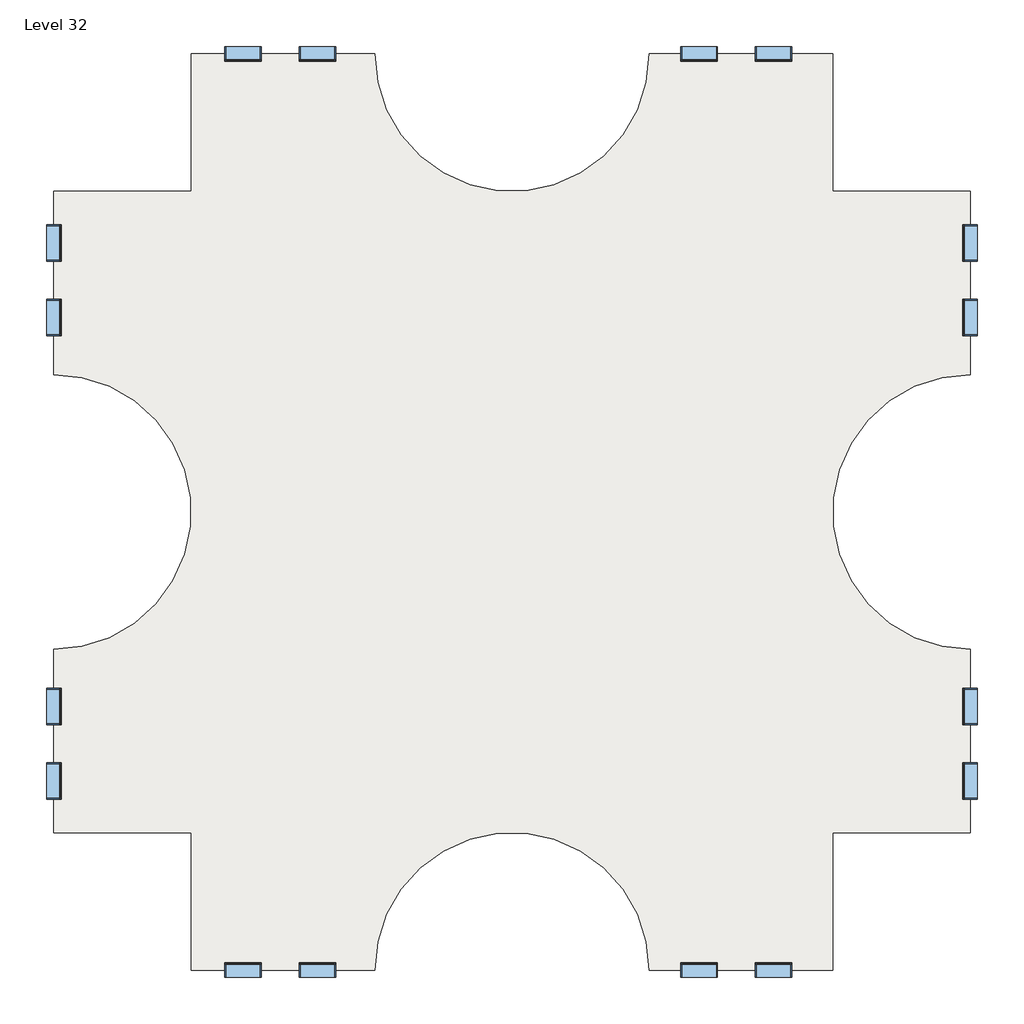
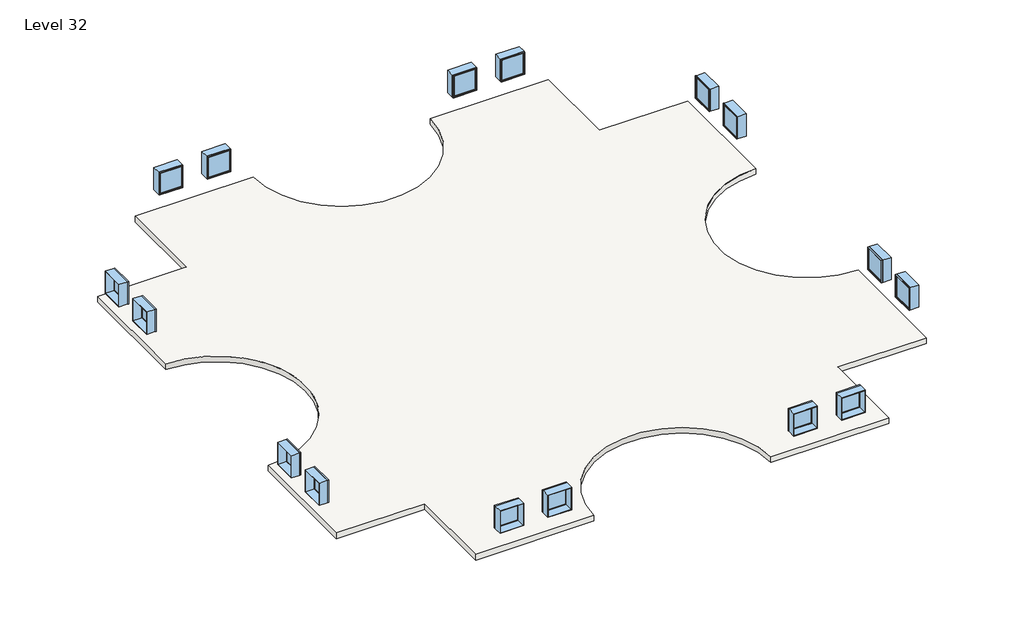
# One storey: 16 windows, 3 slabs.
"""IFC4 building model written with IfcOpenShell, lengths in millimetres."""

import ifcopenshell
import ifcopenshell.guid

model = None  # the IFC model being written
_history = None  # IfcOwnerHistory: only IFC2X3 demands one
_inside = {}  # id of a spatial element -> (the spatial element, [elements in it])
_under = {}  # id of a project, library or spatial element -> (it, [spatial elements below it])
_declared = {}  # id of a project -> (the project, [libraries it declares])
_typed = {}  # id of a type object -> (the type object, [elements of that type])
_made_of = {}  # id of a material, layer set ... -> (it, [elements and type objects made of it])


def new_model(schema):
    """Start an empty IFC model of exactly this schema.

    Asked for "IFC4X3", IfcOpenShell would pick the latest addendum, in which some entities
    have other attributes; the version numbers below select the first issue.
    IFC2X3 requires an IfcOwnerHistory on every rooted entity: one is made here for all.
    """
    global model, _history
    if schema == "IFC4X3":
        model = ifcopenshell.file(schema_version=(4, 3, 0, 0))
    else:
        model = ifcopenshell.file(schema=schema)
    _inside.clear()
    _under.clear()
    _declared.clear()
    _typed.clear()
    _made_of.clear()
    _history = None
    if model.schema == "IFC2X3":
        org = make("IfcOrganization", Name="unknown")
        user = make(
            "IfcPersonAndOrganization",
            ThePerson=make("IfcPerson", FamilyName="unknown"),
            TheOrganization=org,
        )
        app = make(
            "IfcApplication",
            ApplicationDeveloper=org,
            Version="unknown",
            ApplicationFullName="unknown",
            ApplicationIdentifier="unknown",
        )
        _history = make(
            "IfcOwnerHistory",
            OwningUser=user,
            OwningApplication=app,
            ChangeAction="ADDED",
            CreationDate=0,
        )
    return model


def make(cls, **values):
    """One entity of the class cls with the attributes given. An attribute that is None is left unset."""
    return model.create_entity(
        cls, **{name: value for name, value in values.items() if value is not None}
    )


def rooted(cls, **values):
    """An entity with a GlobalId (a new one), such as an element, a storey or a relation."""
    return make(cls, GlobalId=ifcopenshell.guid.new(), OwnerHistory=_history, **values)


def si_unit(unit_type, name, prefix=None):
    """IfcSIUnit, for example si_unit("LENGTHUNIT", "METRE", prefix="MILLI")."""
    return make("IfcSIUnit", UnitType=unit_type, Prefix=prefix, Name=name)


def assignment(units):
    """IfcUnitAssignment: the units of a project."""
    return None if units is None else make("IfcUnitAssignment", Units=units)


def point(xyz):
    """IfcCartesianPoint."""
    return None if xyz is None else make("IfcCartesianPoint", Coordinates=xyz)


def direction(xyz):
    """IfcDirection."""
    return None if xyz is None else make("IfcDirection", DirectionRatios=xyz)


def frame(location, z_axis=None, x_axis=None):
    """IfcAxis2Placement3D, a coordinate frame: its origin and axes. An axis left out is left unset."""
    return make(
        "IfcAxis2Placement3D",
        Location=point(location),
        Axis=direction(z_axis),
        RefDirection=direction(x_axis),
    )


def frame_2d(location, x_axis=None):
    """IfcAxis2Placement2D, a coordinate frame in the plane: its origin and x axis."""
    return make(
        "IfcAxis2Placement2D", Location=point(location), RefDirection=direction(x_axis)
    )


def origin():
    """The frame at (0, 0, 0) with its axes left unset."""
    return frame((0.0, 0.0, 0.0))


def place(relative_to, where):
    """IfcLocalPlacement: puts the frame where relative to a parent placement (None: the world)."""
    return make(
        "IfcLocalPlacement", PlacementRelTo=relative_to, RelativePlacement=where
    )


def context(
    kind, dimensions, precision=None, world=None, true_north=None, identifier=None
):
    """IfcGeometricRepresentationContext, for example the 3D "Model" context."""
    return make(
        "IfcGeometricRepresentationContext",
        ContextIdentifier=identifier,
        ContextType=kind,
        CoordinateSpaceDimension=dimensions,
        Precision=precision,
        WorldCoordinateSystem=world,
        TrueNorth=true_north,
    )


def project(units=None, contexts=None):
    """IfcProject with its units and contexts."""
    return rooted(
        "IfcProject",
        Name="project",
        RepresentationContexts=contexts,
        UnitsInContext=assignment(units),
    )


def spatial(cls, under=None, at=None, **own):
    """A site, building, storey or space (cls), placed at a placement, below another one or the project."""
    s = rooted(cls, ObjectPlacement=at, **own)
    if under is not None:
        _under.setdefault(under.id(), (under, []))[1].append(s)
    return s


def polyline(points):
    """IfcPolyline through the points."""
    return make("IfcPolyline", Points=[point(p) for p in points])


def circle_curve(where, radius):
    """IfcCircle in the frame where."""
    return make("IfcCircle", Position=where, Radius=radius)


def trimmed(basis, trim1, trim2, sense, master):
    """IfcTrimmedCurve: the piece of a basis curve between two trims."""
    return make(
        "IfcTrimmedCurve",
        BasisCurve=basis,
        Trim1=trim1,
        Trim2=trim2,
        SenseAgreement=sense,
        MasterRepresentation=master,
    )


def segment(curve, same_sense, transition):
    """IfcCompositeCurveSegment."""
    return make(
        "IfcCompositeCurveSegment",
        Transition=transition,
        SameSense=same_sense,
        ParentCurve=curve,
    )


def composite_curve(segments, self_intersect=None):
    """IfcCompositeCurve: segments joined end to end."""
    return make("IfcCompositeCurve", Segments=segments, SelfIntersect=self_intersect)


def outline(outer, holes=None, kind="AREA"):
    """IfcArbitraryClosedProfileDef: a profile drawn as a closed curve; with holes, ...WithVoids."""
    if holes is None:
        return make("IfcArbitraryClosedProfileDef", ProfileType=kind, OuterCurve=outer)
    return make(
        "IfcArbitraryProfileDefWithVoids",
        ProfileType=kind,
        OuterCurve=outer,
        InnerCurves=holes,
    )


def extrude(swept, where, along, depth):
    """IfcExtrudedAreaSolid: the profile swept, set in the frame where, extruded along a direction by depth."""
    return make(
        "IfcExtrudedAreaSolid",
        SweptArea=swept,
        Position=where,
        ExtrudedDirection=direction(along),
        Depth=depth,
    )


def shape(context_of_items, identifier, shape_type, items):
    """IfcShapeRepresentation: the items that make up one representation, for example the "Body"."""
    return make(
        "IfcShapeRepresentation",
        ContextOfItems=context_of_items,
        RepresentationIdentifier=identifier,
        RepresentationType=shape_type,
        Items=items,
    )


def source(mapping_origin, context_of_items, identifier, shape_type, items):
    """IfcRepresentationMap: a shape defined once, which mapped items show again and again."""
    return make(
        "IfcRepresentationMap",
        MappingOrigin=mapping_origin,
        MappedRepresentation=shape(context_of_items, identifier, shape_type, items),
    )


def transform(
    local_origin,
    x_axis=None,
    y_axis=None,
    z_axis=None,
    scale=None,
    scale2=None,
    scale3=None,
    uniform=True,
):
    """IfcCartesianTransformationOperator3D, or its non-uniform kind. x_axis, y_axis, z_axis: its Axis1, 2, 3."""
    if uniform:
        return make(
            "IfcCartesianTransformationOperator3D",
            Axis1=direction(x_axis),
            Axis2=direction(y_axis),
            LocalOrigin=point(local_origin),
            Scale=scale,
            Axis3=direction(z_axis),
        )
    return make(
        "IfcCartesianTransformationOperator3DnonUniform",
        Axis1=direction(x_axis),
        Axis2=direction(y_axis),
        LocalOrigin=point(local_origin),
        Scale=scale,
        Axis3=direction(z_axis),
        Scale2=scale2,
        Scale3=scale3,
    )


def mapped(mapping_source, mapping_target):
    """IfcMappedItem: shows the shape of a source again, moved by a transform."""
    return make(
        "IfcMappedItem", MappingSource=mapping_source, MappingTarget=mapping_target
    )


def made_of(thing, what):
    """Note that an element or type object is made of a material, layer set ...; save() writes the relation."""
    if what is not None:
        _made_of.setdefault(what.id(), (what, []))[1].append(thing)
    return thing


def element(
    cls,
    number,
    at=None,
    inside=None,
    cuts=None,
    type_object=None,
    material=None,
    context=None,
    identifier="Body",
    shape_type=None,
    held_by="IfcProductDefinitionShape",
    body=None,
    shapes=None,
    **own,
):
    """One element of the class cls, such as IfcWall. Its Tag is "e" and its number.

    at: its placement. inside: the storey or other place that contains it. cuts: it is an
    opening in that element (IfcRelVoidsElement). A single representation is given by context,
    identifier, shape_type and body (its items); several are given by shapes. held_by: the class
    of the entity that holds the representations. save() writes the other relations.
    """
    e = rooted(cls, Tag="e%d" % number, ObjectPlacement=at, **own)
    if body is not None:
        shapes = [shape(context, identifier, shape_type, body)]
    if shapes is not None:
        e.Representation = make(held_by, Representations=shapes)
    if inside is not None:
        _inside.setdefault(inside.id(), (inside, []))[1].append(e)
    if cuts is not None:
        rooted(
            "IfcRelVoidsElement", RelatingBuildingElement=cuts, RelatedOpeningElement=e
        )
    if type_object is not None:
        _typed.setdefault(type_object.id(), (type_object, []))[1].append(e)
    return made_of(e, material)


def aggregate(whole, parts):
    """IfcRelAggregates: a whole, such as a stair, and the parts it consists of."""
    return rooted("IfcRelAggregates", RelatingObject=whole, RelatedObjects=parts)


def save(model, path):
    """Write the relations noted so far, then the file.

    IfcRelAggregates (storeys below a building ...), IfcRelContainedInSpatialStructure (elements
    in a storey), IfcRelDefinesByType, IfcRelAssociatesMaterial and IfcRelDeclares: one each for
    every whole, place, type object, material and project.
    """
    for whole, parts in _under.values():
        aggregate(whole, parts)
    for where, things in _inside.values():
        rooted(
            "IfcRelContainedInSpatialStructure",
            RelatedElements=things,
            RelatingStructure=where,
        )
    for kind, things in _typed.values():
        rooted("IfcRelDefinesByType", RelatedObjects=things, RelatingType=kind)
    for what, things in _made_of.values():
        rooted("IfcRelAssociatesMaterial", RelatedObjects=things, RelatingMaterial=what)
    for by, libraries in _declared.values():
        rooted("IfcRelDeclares", RelatingContext=by, RelatedDefinitions=libraries)
    model.write(path)


def window_d0035ecf(model_context):
    return source(origin(), model_context, "Body", "SweptSolid", [
        extrude(outline(polyline([(508.0, 200.025), (-584.2, 200.025), (-584.2, 212.725), (508.0, 212.725), (508.0, 200.025)])), frame((0.0, 0.0, 977.9), z_axis=(0.0, 0.0, 1.0), x_axis=(1.0, 0.0, 0.0)), (0.0, 0.0, 1.0), 1092.2),
        extrude(outline(polyline([(2114.55, -628.65), (933.45, -628.65), (933.45, 552.45), (2114.55, 552.45), (2114.55, -628.65)]), holes=[polyline([(2070.1, -584.2), (2070.1, 508.0), (977.9, 508.0), (977.9, -584.2), (2070.1, -584.2)])]), frame((0.0, 184.15, 0.0), z_axis=(0.0, 1.0, 0.0), x_axis=(0.0, 0.0, 1.0)), (0.0, 0.0, 1.0), 44.45),
        extrude(outline(polyline([(2133.6, -647.7), (914.4, -647.7), (914.4, 571.5), (2133.6, 571.5), (2133.6, -647.7)]), holes=[polyline([(2101.85, -615.95), (2101.85, 539.75), (946.15, 539.75), (946.15, -615.95), (2101.85, -615.95)])]), frame((0.0, -247.65, 0.0), z_axis=(0.0, 1.0, 0.0), x_axis=(0.0, 0.0, 1.0)), (0.0, 0.0, 1.0), 431.8),
        extrude(outline(polyline([(2133.6, 571.5), (2133.6, -647.7), (914.4, -647.7), (914.4, 571.5), (2133.6, 571.5)]), holes=[polyline([(2114.55, 552.45), (933.45, 552.45), (933.45, -628.65), (2114.55, -628.65), (2114.55, 552.45)])]), frame((0.0, 184.15, 0.0), z_axis=(0.0, 1.0, 0.0), x_axis=(0.0, 0.0, 1.0)), (0.0, 0.0, 1.0), 63.5),
    ])


def window_d434eb62(model_context):
    return source(origin(), model_context, "Body", "SweptSolid", [
        extrude(outline(polyline([(508.0, -200.025), (508.0, -212.725), (-584.2, -212.725), (-584.2, -200.025), (508.0, -200.025)])), frame((0.0, 0.0, 977.9), z_axis=(0.0, 0.0, 1.0), x_axis=(1.0, 0.0, 0.0)), (0.0, 0.0, 1.0), 1092.2),
        extrude(outline(polyline([(2114.55, -628.65), (933.45, -628.65), (933.45, 552.45), (2114.55, 552.45), (2114.55, -628.65)]), holes=[polyline([(2070.1, -584.2), (2070.1, 508.0), (977.9, 508.0), (977.9, -584.2), (2070.1, -584.2)])]), frame((0.0, -228.6, 0.0), z_axis=(0.0, 1.0, 0.0), x_axis=(0.0, 0.0, 1.0)), (0.0, 0.0, 1.0), 44.45),
        extrude(outline(polyline([(2133.6, -647.7), (914.4, -647.7), (914.4, 571.5), (2133.6, 571.5), (2133.6, -647.7)]), holes=[polyline([(2101.85, -615.95), (2101.85, 539.75), (946.15, 539.75), (946.15, -615.95), (2101.85, -615.95)])]), frame((0.0, -184.15, 0.0), z_axis=(0.0, 1.0, 0.0), x_axis=(0.0, 0.0, 1.0)), (0.0, 0.0, 1.0), 431.8),
        extrude(outline(polyline([(2133.6, 571.5), (2133.6, -647.7), (914.4, -647.7), (914.4, 571.5), (2133.6, 571.5)]), holes=[polyline([(2114.55, 552.45), (933.45, 552.45), (933.45, -628.65), (2114.55, -628.65), (2114.55, 552.45)])]), frame((0.0, -247.65, 0.0), z_axis=(0.0, 1.0, 0.0), x_axis=(0.0, 0.0, 1.0)), (0.0, 0.0, 1.0), 63.5),
    ])


model = new_model("IFC4")

# Units and contexts
model_context = context("Model", 3, world=origin())
ifc_project = project(units=[si_unit("LENGTHUNIT", "METRE", prefix="MILLI")], contexts=[model_context])

# Site, building, storey
site = spatial("IfcSite", under=ifc_project)
building = spatial("IfcBuilding", under=site)
storey = spatial("IfcBuildingStorey", under=building, Name="Level 32", Elevation=94488.0)

# Slabs
placement = place(None, origin())
element("IfcSlab", 1, ObjectType="Generic - 12\"", at=placement, inside=storey, context=model_context, shape_type="SweptSolid", body=[
    extrude(outline(composite_curve([segment(polyline([(-7150.3629456, 4479.6634547), (-7150.3629456, 9051.6634547), (-1054.3629456, 9051.6634547)]), True, "CONTINUOUS"), segment(trimmed(circle_curve(frame_2d((3517.6370544, 9051.6634547)), 4572.0), [point((-1054.3629456, 9051.6634547))], [point((8089.6370544, 9051.6634547))], True, "CARTESIAN"), True, "CONTINUOUS"), segment(polyline([(8089.6370544, 9051.6634547), (14185.6370544, 9051.6634547), (14185.6370544, 4479.6634547), (18757.6370544, 4479.6634547), (18757.6370544, -1616.3365453)]), True, "CONTINUOUS"), segment(trimmed(circle_curve(frame_2d((18757.6370544, -6188.3365453)), 4572.0), [point((18757.6370544, -1616.3365453))], [point((18757.6370544, -10760.3365453))], True, "CARTESIAN"), True, "CONTINUOUS"), segment(polyline([(18757.6370544, -10760.3365453), (18757.6370544, -16856.3365453), (14185.6370544, -16856.3365453), (14185.6370544, -21428.3365453), (8089.6370544, -21428.3365453)]), True, "CONTINUOUS"), segment(trimmed(circle_curve(frame_2d((3517.6370544, -21428.3365453)), 4572.0), [point((8089.6370544, -21428.3365453))], [point((-1054.3629456, -21428.3365453))], True, "CARTESIAN"), True, "CONTINUOUS"), segment(polyline([(-1054.3629456, -21428.3365453), (-7150.3629456, -21428.3365453), (-7150.3629456, -16856.3365453), (-11722.3629456, -16856.3365453), (-11722.3629456, -10760.3365453)]), True, "CONTINUOUS"), segment(trimmed(circle_curve(frame_2d((-11722.3629456, -6188.3365453)), 4572.0), [point((-11722.3629456, -10760.3365453))], [point((-11722.3629456, -1616.3365453))], True, "CARTESIAN"), True, "CONTINUOUS"), segment(polyline([(-11722.3629456, -1616.3365453), (-11722.3629456, 4479.6634547), (-7150.3629456, 4479.6634547)]), True, "CONTINUOUS")], self_intersect=False)), frame((0.0, 0.0, 94183.2), z_axis=(0.0, 0.0, 1.0), x_axis=(1.0, 0.0, 0.0)), (0.0, 0.0, 1.0), 304.8),
])
element("IfcSlab", 2, ObjectType="Generic - 12\"", at=placement, inside=storey, context=model_context, shape_type="SweptSolid", body=[
    extrude(outline(composite_curve([segment(polyline([(-7150.3629456, 4479.6634547), (-7150.3629456, 9051.6634547), (-1054.3629456, 9051.6634547)]), True, "CONTINUOUS"), segment(trimmed(circle_curve(frame_2d((3517.6370544, 9051.6634547)), 4572.0), [point((-1054.3629456, 9051.6634547))], [point((8089.6370544, 9051.6634547))], True, "CARTESIAN"), True, "CONTINUOUS"), segment(polyline([(8089.6370544, 9051.6634547), (14185.6370544, 9051.6634547), (14185.6370544, 4479.6634547), (18757.6370544, 4479.6634547), (18757.6370544, -1616.3365453)]), True, "CONTINUOUS"), segment(trimmed(circle_curve(frame_2d((18757.6370544, -6188.3365453)), 4572.0), [point((18757.6370544, -1616.3365453))], [point((18757.6370544, -10760.3365453))], True, "CARTESIAN"), True, "CONTINUOUS"), segment(polyline([(18757.6370544, -10760.3365453), (18757.6370544, -16856.3365453), (14185.6370544, -16856.3365453), (14185.6370544, -21428.3365453), (8089.6370544, -21428.3365453)]), True, "CONTINUOUS"), segment(trimmed(circle_curve(frame_2d((3517.6370544, -21428.3365453)), 4572.0), [point((8089.6370544, -21428.3365453))], [point((-1054.3629456, -21428.3365453))], True, "CARTESIAN"), True, "CONTINUOUS"), segment(polyline([(-1054.3629456, -21428.3365453), (-7150.3629456, -21428.3365453), (-7150.3629456, -16856.3365453), (-11722.3629456, -16856.3365453), (-11722.3629456, -10760.3365453)]), True, "CONTINUOUS"), segment(trimmed(circle_curve(frame_2d((-11722.3629456, -6188.3365453)), 4572.0), [point((-11722.3629456, -10760.3365453))], [point((-11722.3629456, -1616.3365453))], True, "CARTESIAN"), True, "CONTINUOUS"), segment(polyline([(-11722.3629456, -1616.3365453), (-11722.3629456, 4479.6634547), (-7150.3629456, 4479.6634547)]), True, "CONTINUOUS")], self_intersect=False)), frame((0.0, 0.0, 94183.2), z_axis=(0.0, 0.0, 1.0), x_axis=(1.0, 0.0, 0.0)), (0.0, 0.0, 1.0), 304.8),
])
element("IfcSlab", 3, ObjectType="Generic - 12\"", at=placement, inside=storey, context=model_context, shape_type="SweptSolid", body=[
    extrude(outline(composite_curve([segment(polyline([(-7150.3629456, 4479.6634547), (-7150.3629456, 9051.6634547), (-1054.3629456, 9051.6634547)]), True, "CONTINUOUS"), segment(trimmed(circle_curve(frame_2d((3517.6370544, 9051.6634547)), 4572.0), [point((-1054.3629456, 9051.6634547))], [point((8089.6370544, 9051.6634547))], True, "CARTESIAN"), True, "CONTINUOUS"), segment(polyline([(8089.6370544, 9051.6634547), (14185.6370544, 9051.6634547), (14185.6370544, 4479.6634547), (18757.6370544, 4479.6634547), (18757.6370544, -1616.3365453)]), True, "CONTINUOUS"), segment(trimmed(circle_curve(frame_2d((18757.6370544, -6188.3365453)), 4572.0), [point((18757.6370544, -1616.3365453))], [point((18757.6370544, -10760.3365453))], True, "CARTESIAN"), True, "CONTINUOUS"), segment(polyline([(18757.6370544, -10760.3365453), (18757.6370544, -16856.3365453), (14185.6370544, -16856.3365453), (14185.6370544, -21428.3365453), (8089.6370544, -21428.3365453)]), True, "CONTINUOUS"), segment(trimmed(circle_curve(frame_2d((3517.6370544, -21428.3365453)), 4572.0), [point((8089.6370544, -21428.3365453))], [point((-1054.3629456, -21428.3365453))], True, "CARTESIAN"), True, "CONTINUOUS"), segment(polyline([(-1054.3629456, -21428.3365453), (-7150.3629456, -21428.3365453), (-7150.3629456, -16856.3365453), (-11722.3629456, -16856.3365453), (-11722.3629456, -10760.3365453)]), True, "CONTINUOUS"), segment(trimmed(circle_curve(frame_2d((-11722.3629456, -6188.3365453)), 4572.0), [point((-11722.3629456, -10760.3365453))], [point((-11722.3629456, -1616.3365453))], True, "CARTESIAN"), True, "CONTINUOUS"), segment(polyline([(-11722.3629456, -1616.3365453), (-11722.3629456, 4479.6634547), (-7150.3629456, 4479.6634547)]), True, "CONTINUOUS")], self_intersect=False)), frame((0.0, 0.0, 94183.2), z_axis=(0.0, 0.0, 1.0), x_axis=(1.0, 0.0, 0.0)), (0.0, 0.0, 1.0), 304.8),
])

# Windows
window_shape = window_d0035ecf(model_context)
element("IfcWindow", 4, ObjectType="Fixed : 48\" x 48\"", at=placement, inside=storey, context=model_context, shape_type="MappedRepresentation", body=[
    mapped(window_shape, transform((-11719.1879456, 247.3884547, 94488.0), x_axis=(0.0, -1.0, 0.0), y_axis=(1.0, 0.0, 0.0), z_axis=(0.0, 0.0, 1.0))),
])
element("IfcWindow", 5, ObjectType="Fixed : 48\" x 48\"", at=placement, inside=storey, context=model_context, shape_type="MappedRepresentation", body=[
    mapped(window_shape, transform((-5469.1993281, 9048.4884547, 94488.0), x_axis=(-1.0, 0.0, 0.0), y_axis=(0.0, -1.0, 0.0), z_axis=(0.0, 0.0, 1.0))),
])
element("IfcWindow", 6, ObjectType="Fixed : 48\" x 48\"", at=placement, inside=storey, context=model_context, shape_type="MappedRepresentation", body=[
    mapped(window_shape, transform((-11719.1879456, -15175.1729277, 94488.0), x_axis=(0.0, -1.0, 0.0), y_axis=(1.0, 0.0, 0.0), z_axis=(0.0, 0.0, 1.0))),
])
element("IfcWindow", 7, ObjectType="Fixed : 48\" x 48\"", at=placement, inside=storey, context=model_context, shape_type="MappedRepresentation", body=[
    mapped(window_shape, transform((-2918.0879456, -21425.1615453, 94488.0), x_axis=(1.0, 0.0, 0.0), y_axis=(0.0, 1.0, 0.0), z_axis=(0.0, 0.0, 1.0))),
])
element("IfcWindow", 8, ObjectType="Fixed : 48\" x 48\"", at=placement, inside=storey, context=model_context, shape_type="MappedRepresentation", body=[
    mapped(window_shape, transform((18754.4620544, 2798.4998372, 94488.0), x_axis=(0.0, 1.0, 0.0), y_axis=(-1.0, 0.0, 0.0), z_axis=(0.0, 0.0, 1.0))),
])
element("IfcWindow", 9, ObjectType="Fixed : 48\" x 48\"", at=placement, inside=storey, context=model_context, shape_type="MappedRepresentation", body=[
    mapped(window_shape, transform((9705.7120544, 9048.4884547, 94488.0), x_axis=(-1.0, 0.0, 0.0), y_axis=(0.0, -1.0, 0.0), z_axis=(0.0, 0.0, 1.0))),
])
element("IfcWindow", 10, ObjectType="Fixed : 48\" x 48\"", at=placement, inside=storey, context=model_context, shape_type="MappedRepresentation", body=[
    mapped(window_shape, transform((18754.4620544, -12624.0615453, 94488.0), x_axis=(0.0, 1.0, 0.0), y_axis=(-1.0, 0.0, 0.0), z_axis=(0.0, 0.0, 1.0))),
])
element("IfcWindow", 11, ObjectType="Fixed : 48\" x 48\"", at=placement, inside=storey, context=model_context, shape_type="MappedRepresentation", body=[
    mapped(window_shape, transform((12256.8234368, -21425.1615453, 94488.0), x_axis=(1.0, 0.0, 0.0), y_axis=(0.0, 1.0, 0.0), z_axis=(0.0, 0.0, 1.0))),
])
window_2_shape = window_d434eb62(model_context)
element("IfcWindow", 12, ObjectType="Fixed : 48\" x 48\"", at=placement, inside=storey, context=model_context, shape_type="MappedRepresentation", body=[
    mapped(window_2_shape, transform((-11719.1879456, 2798.4998372, 94488.0), x_axis=(0.0, 1.0, 0.0), y_axis=(-1.0, 0.0, 0.0), z_axis=(0.0, 0.0, 1.0))),
])
element("IfcWindow", 13, ObjectType="Fixed : 48\" x 48\"", at=placement, inside=storey, context=model_context, shape_type="MappedRepresentation", body=[
    mapped(window_2_shape, transform((-2918.0879456, 9048.4884547, 94488.0), x_axis=(1.0, 0.0, 0.0), y_axis=(0.0, 1.0, 0.0), z_axis=(0.0, 0.0, 1.0))),
])
element("IfcWindow", 14, ObjectType="Fixed : 48\" x 48\"", at=placement, inside=storey, context=model_context, shape_type="MappedRepresentation", body=[
    mapped(window_2_shape, transform((-11719.1879456, -12624.0615453, 94488.0), x_axis=(0.0, 1.0, 0.0), y_axis=(-1.0, 0.0, 0.0), z_axis=(0.0, 0.0, 1.0))),
])
element("IfcWindow", 15, ObjectType="Fixed : 48\" x 48\"", at=placement, inside=storey, context=model_context, shape_type="MappedRepresentation", body=[
    mapped(window_2_shape, transform((-5469.1993281, -21425.1615453, 94488.0), x_axis=(-1.0, 0.0, 0.0), y_axis=(0.0, -1.0, 0.0), z_axis=(0.0, 0.0, 1.0))),
])
element("IfcWindow", 16, ObjectType="Fixed : 48\" x 48\"", at=placement, inside=storey, context=model_context, shape_type="MappedRepresentation", body=[
    mapped(window_2_shape, transform((18754.4620544, 247.3884547, 94488.0), x_axis=(0.0, -1.0, 0.0), y_axis=(1.0, 0.0, 0.0), z_axis=(0.0, 0.0, 1.0))),
])
element("IfcWindow", 17, ObjectType="Fixed : 48\" x 48\"", at=placement, inside=storey, context=model_context, shape_type="MappedRepresentation", body=[
    mapped(window_2_shape, transform((12256.8234368, 9048.4884547, 94488.0), x_axis=(1.0, 0.0, 0.0), y_axis=(0.0, 1.0, 0.0), z_axis=(0.0, 0.0, 1.0))),
])
element("IfcWindow", 18, ObjectType="Fixed : 48\" x 48\"", at=placement, inside=storey, context=model_context, shape_type="MappedRepresentation", body=[
    mapped(window_2_shape, transform((18754.4620544, -15175.1729277, 94488.0), x_axis=(0.0, -1.0, 0.0), y_axis=(1.0, 0.0, 0.0), z_axis=(0.0, 0.0, 1.0))),
])
element("IfcWindow", 19, ObjectType="Fixed : 48\" x 48\"", at=placement, inside=storey, context=model_context, shape_type="MappedRepresentation", body=[
    mapped(window_2_shape, transform((9705.7120544, -21425.1615453, 94488.0), x_axis=(-1.0, 0.0, 0.0), y_axis=(0.0, -1.0, 0.0), z_axis=(0.0, 0.0, 1.0))),
])

save(model, "model.ifc")
